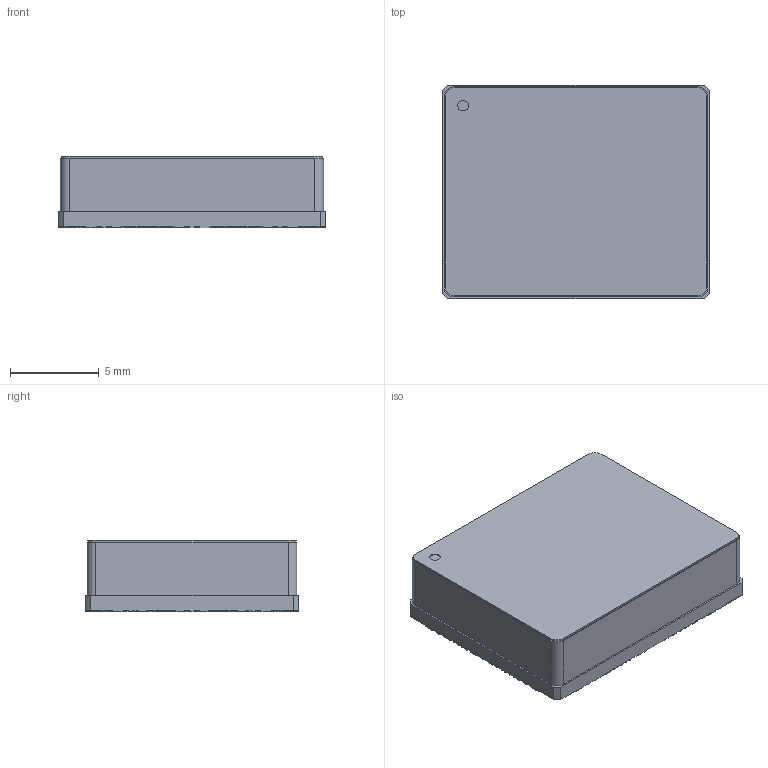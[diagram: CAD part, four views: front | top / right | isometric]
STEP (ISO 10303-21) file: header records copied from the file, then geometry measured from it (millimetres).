
FILE_DESCRIPTION (( 'STEP AP203' ), '1' );
FILE_NAME ('蚾饜极1.STEP', '2026-08-27T06:29:32', ( 'Windows User' ), ( 'P R C' ), 'SwSTEP 2.0', 'SolidWorks 2013', '' );
FILE_SCHEMA (( 'CONFIG_CONTROL_DESIGN' ));
Length unit declared in the file: millimetre
Products named in the file (3): 裔啣; 奪褲; 蚾饜极1
Assembly tree (2 placements, depth 2):
  蚾饜极1
    奪褲
    裔啣
Bounding box: 15 x 12 x 4 mm (x, y, z)
Volume: 258.6 mm3; surface area: 1079.8 mm2
Topology: 2 solids, 2 shells, 480 faces, 1409 edges, 941 vertices
Faces by surface type: plane 328, cylinder 152
Entity records: 16222 total; most frequent: CARTESIAN_POINT 2835, ORIENTED_EDGE 2818, DIRECTION 2683, EDGE_CURVE 1409, LINE 1105, VECTOR 1105, VERTEX_POINT 941, AXIS2_PLACEMENT_3D 789
